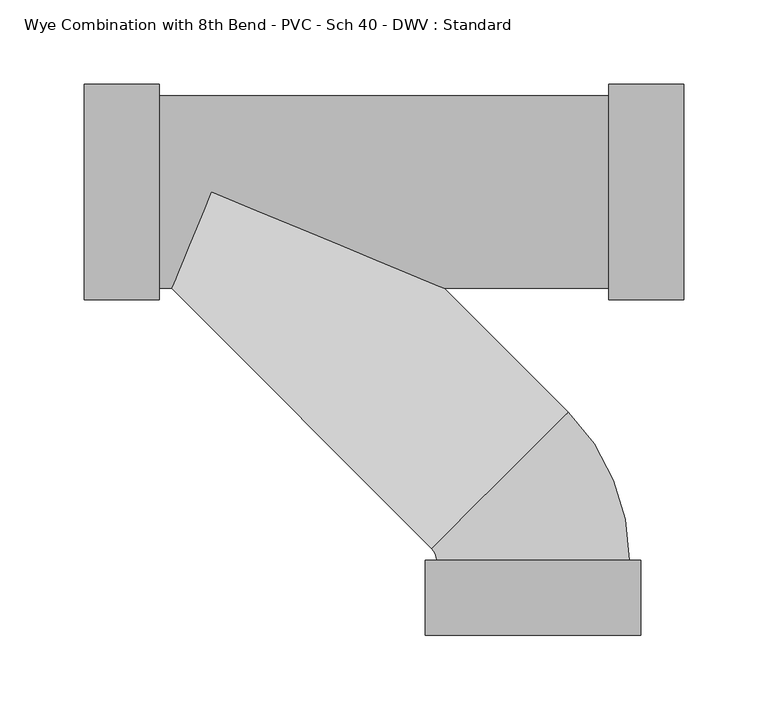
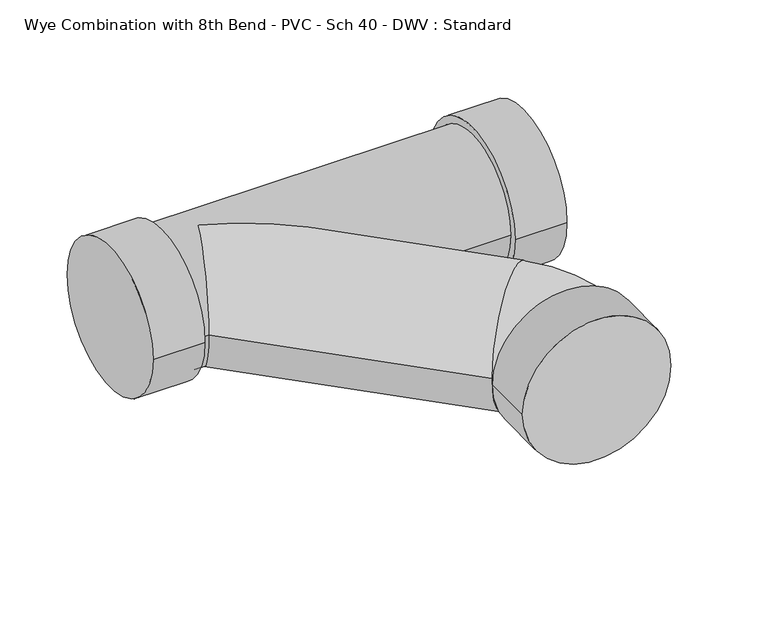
"""IFC4 building model written with IfcOpenShell, lengths in millimetres: pipe fitting geometry, Wye Combination with 8th Bend - PVC - Sch 40 - DWV : Standard."""

from ifc_helpers import new_model, si_unit, point, frame, origin, place, context, project, spatial, circle_curve, ellipse_curve, trimmed, source, transform, mapped, element, save
from ifc_brep_helpers import plane_surface, cylinder_surface, revolved_surface, advanced_brep


def wye_combination_with_8th_bend_pvc_sch_40_dwv_standard_f6c291ce(model_context):
    return source(origin(), model_context, "Body", "AdvancedBrep", [
        advanced_brep(
        [(-265.9100558, -63.754, 0.0), (-265.9100558, 63.754, 0.0), (-221.4600558, -63.754, 0.0), (-221.4600558, 63.754, 0.0), (-221.4600558, -57.15, 0.0), (-221.4600558, 57.15, 0.0), (44.8335442, 57.15, 0.0), (-214.2352415, -57.15, 0.0), (-190.5629364, 0.0, 57.15), (-52.5906313, -57.15, 0.0), (44.8335442, -57.15, 0.0), (-190.5629364, 0.0, -57.15), (44.8335442, -63.754, 0.0), (44.8335442, 63.754, 0.0), (89.2835442, -63.754, 0.0), (89.2835442, 63.754, 0.0), (-60.0116586, -211.3735829, 0.0), (-57.1474558, -218.2882661, 0.0), (57.1525442, -218.2869339, 0.0), (20.8106465, -130.5512778, 0.0), (-63.7514558, -218.2883431, 0.0), (63.7565442, -218.2868569, 0.0), (-63.7509377, -262.7383431, 0.0), (63.7570623, -262.7368569, 0.0)],
        [
            (0, 1, circle_curve(frame((-265.9100558, 0.0, 0.0), z_axis=(-1.0, 0.0, 0.0), x_axis=(0.0, 1.0, 0.0)), 63.754)),
            (1, 0, circle_curve(frame((-265.9100558, 0.0, 0.0), z_axis=(-1.0, 0.0, 0.0), x_axis=(0.0, 1.0, 0.0)), 63.754)),
            (2, 3, circle_curve(frame((-221.4600558, 0.0, 0.0), z_axis=(1.0, 0.0, 0.0), x_axis=(0.0, 1.0, 0.0)), 63.754)),
            (3, 2, circle_curve(frame((-221.4600558, 0.0, 0.0), z_axis=(1.0, 0.0, 0.0), x_axis=(0.0, 1.0, 0.0)), 63.754)),
            (4, 5, circle_curve(frame((-221.4600558, 0.0, 0.0), z_axis=(-1.0, 0.0, 0.0), x_axis=(0.0, 1.0, 0.0)), 57.15)),
            (5, 4, circle_curve(frame((-221.4600558, 0.0, 0.0), z_axis=(-1.0, 0.0, 0.0), x_axis=(0.0, 1.0, 0.0)), 57.15)),
            (0, 2),
            (3, 1),
            (6, 5),
            (4, 7),
            (7, 8, ellipse_curve(frame((-190.5629364, 0.0, 0.0), z_axis=(-0.9238795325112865, 0.38268343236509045, 0.0), x_axis=(-0.38268343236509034, -0.9238795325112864, 0.0)), 61.8587142, 57.15)),
            (8, 9, ellipse_curve(frame((-190.5629364, 0.0, 0.0), z_axis=(0.38268343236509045, 0.9238795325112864, 0.0), x_axis=(-0.9238795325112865, 0.3826834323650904, 0.0)), 149.3401469, 57.15)),
            (9, 10),
            (10, 6, circle_curve(frame((44.8335442, 0.0, 0.0), z_axis=(-1.0, 0.0, 0.0), x_axis=(0.0, 1.0, 0.0)), 57.15)),
            (6, 10, circle_curve(frame((44.8335442, 0.0, 0.0), z_axis=(-1.0, 0.0, 0.0), x_axis=(0.0, 1.0, 0.0)), 57.15)),
            (9, 11, ellipse_curve(frame((-190.5629364, 0.0, 0.0), z_axis=(0.38268343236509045, 0.9238795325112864, 0.0), x_axis=(-0.9238795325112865, 0.3826834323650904, 0.0)), 149.3401469, 57.15)),
            (11, 7, ellipse_curve(frame((-190.5629364, 0.0, 0.0), z_axis=(-0.9238795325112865, 0.38268343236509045, 0.0), x_axis=(-0.38268343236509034, -0.9238795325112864, 0.0)), 61.8587142, 57.15)),
            (12, 13, circle_curve(frame((44.8335442, 0.0, 0.0), z_axis=(-1.0, 0.0, 0.0), x_axis=(0.0, 1.0, 0.0)), 63.754)),
            (13, 12, circle_curve(frame((44.8335442, 0.0, 0.0), z_axis=(-1.0, 0.0, 0.0), x_axis=(0.0, 1.0, 0.0)), 63.754)),
            (14, 15, circle_curve(frame((89.2835442, 0.0, 0.0), z_axis=(1.0, 0.0, 0.0), x_axis=(0.0, 1.0, 0.0)), 63.754)),
            (15, 14, circle_curve(frame((89.2835442, 0.0, 0.0), z_axis=(1.0, 0.0, 0.0), x_axis=(0.0, 1.0, 0.0)), 63.754)),
            (12, 14),
            (15, 13),
            (16, 17, circle_curve(frame((-66.9264558, -218.2883801, 0.0), z_axis=(0.0, 0.0, -1.0), x_axis=(0.999999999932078, 1.1655211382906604e-05, 0.0)), 9.779)),
            (17, 18, circle_curve(frame((0.0025442, -218.2876, 0.0), z_axis=(-1.1655211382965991e-05, 0.999999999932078, 0.0), x_axis=(-0.999999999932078, -1.1655211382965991e-05, 0.0)), 57.15)),
            (18, 19, circle_curve(frame((-66.9264558, -218.2883801, 0.0), z_axis=(0.0, 0.0, 1.0), x_axis=(0.999999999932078, 1.1655211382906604e-05, 0.0)), 124.079)),
            (19, 16, circle_curve(frame((-19.600506, -170.9624303, 0.0), z_axis=(0.7071067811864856, -0.7071067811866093, 0.0), x_axis=(-0.7071067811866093, -0.7071067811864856, 0.0)), 57.15)),
            (16, 19, circle_curve(frame((-19.600506, -170.9624303, 0.0), z_axis=(0.7071067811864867, -0.7071067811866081, 0.0), x_axis=(-0.7071067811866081, -0.7071067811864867, 0.0)), 57.15)),
            (18, 17, circle_curve(frame((0.0025442, -218.2876, 0.0), z_axis=(-1.1655211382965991e-05, 0.999999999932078, 0.0), x_axis=(-0.999999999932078, -1.1655211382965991e-05, 0.0)), 57.15)),
            (19, 9),
            (7, 16),
            (20, 21, circle_curve(frame((0.0025442, -218.2876, 0.0), z_axis=(-1.1655211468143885e-05, 0.999999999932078, 0.0), x_axis=(0.999999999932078, 1.1655211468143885e-05, 0.0)), 63.754)),
            (21, 20, circle_curve(frame((0.0025442, -218.2876, 0.0), z_axis=(-1.1655211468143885e-05, 0.999999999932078, 0.0), x_axis=(0.999999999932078, 1.1655211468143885e-05, 0.0)), 63.754)),
            (22, 23, circle_curve(frame((0.0030623, -262.7376, 0.0), z_axis=(1.1655211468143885e-05, -0.999999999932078, 0.0), x_axis=(0.999999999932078, 1.1655211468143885e-05, 0.0)), 63.754)),
            (23, 22, circle_curve(frame((0.0030623, -262.7376, 0.0), z_axis=(1.1655211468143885e-05, -0.999999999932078, 0.0), x_axis=(0.999999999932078, 1.1655211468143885e-05, 0.0)), 63.754)),
            (20, 22),
            (23, 21),
        ],
        [
            plane_surface(frame((-265.9100558, 0.0, 0.0), z_axis=(-1.0, 0.0, 0.0), x_axis=(0.0, 0.0, 1.0))),
            plane_surface(frame((-221.4600558, 0.0, 0.0), z_axis=(1.0, 0.0, 0.0), x_axis=(0.0, 0.0, 1.0))),
            cylinder_surface(frame((-265.9100558, 0.0, 0.0), z_axis=(-1.0, 0.0, 0.0), x_axis=(0.0, 1.0, 0.0)), 63.754),
            cylinder_surface(frame((-221.4600558, 0.0, 0.0), z_axis=(-1.0, 0.0, 0.0), x_axis=(0.0, 1.0, 0.0)), 57.15),
            plane_surface(frame((44.8335442, 0.0, 0.0), z_axis=(-1.0, 0.0, 0.0), x_axis=(0.0, 0.0, 1.0))),
            plane_surface(frame((89.2835442, 0.0, 0.0), z_axis=(1.0, 0.0, 0.0), x_axis=(0.0, 0.0, 1.0))),
            cylinder_surface(frame((44.8335442, 0.0, 0.0), z_axis=(-1.0, 0.0, 0.0), x_axis=(0.0, 1.0, 0.0)), 63.754),
            revolved_surface(trimmed(ellipse_curve(frame((0.0025442, -218.2876, 0.0), z_axis=(1.1655211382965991e-05, -0.999999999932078, 0.0), x_axis=(-0.999999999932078, -1.1655211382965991e-05, 0.0)), 57.15, 57.15), [point((57.1525442, -218.2869339, 0.0))], [point((-57.1474558, -218.2882661, 0.0))], True, "CARTESIAN"), (-66.9264558, -218.2883801, 0.0), (0.0, 0.0, 1.0)),
            revolved_surface(trimmed(ellipse_curve(frame((0.0025442, -218.2876, 0.0), z_axis=(1.1655211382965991e-05, -0.999999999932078, 0.0), x_axis=(-0.999999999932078, -1.1655211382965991e-05, 0.0)), 57.15, 57.15), [point((-57.1474558, -218.2882661, 0.0))], [point((57.1525442, -218.2869339, 0.0))], True, "CARTESIAN"), (-66.9264558, -218.2883801, 0.0), (0.0, 0.0, 1.0)),
            cylinder_surface(frame((-19.600506, -170.9624303, 0.0), z_axis=(0.7071067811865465, -0.7071067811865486, 0.0), x_axis=(-0.7071067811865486, -0.7071067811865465, 0.0)), 57.15),
            plane_surface(frame((0.0025442, -218.2876, 0.0), z_axis=(-1.1655211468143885e-05, 0.999999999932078, 0.0), x_axis=(0.0, 0.0, 1.0))),
            plane_surface(frame((0.0030623, -262.7376, 0.0), z_axis=(1.1655211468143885e-05, -0.999999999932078, 0.0), x_axis=(0.0, 0.0, 1.0))),
            cylinder_surface(frame((0.0025442, -218.2876, 0.0), z_axis=(-1.1655211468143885e-05, 0.999999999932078, 0.0), x_axis=(0.999999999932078, 1.1655211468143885e-05, 0.0)), 63.754),
        ],
        [
            (0, [[1, 2]]),
            (1, [[3, 4], [5, 6]]),
            (2, [[-1, 7, -4, 8]]),
            (2, [[-2, -8, -3, -7]]),
            (3, [[9, -5, 10, 11, 12, 13, 14]]),
            (3, [[-9, 15, -13, 16, 17, -10, -6]]),
            (4, [[18, 19], [-14, -15]]),
            (5, [[20, 21]]),
            (6, [[-18, 22, -21, 23]]),
            (6, [[-19, -23, -20, -22]]),
            (7, [[24, 25, 26, 27]]),
            (8, [[-24, 28, -26, 29]]),
            (9, [[-27, 30, -12, -11, 31]]),
            (9, [[-28, -31, -17, -16, -30]]),
            (10, [[32, 33], [-25, -29]]),
            (11, [[34, 35]]),
            (12, [[-32, 36, -35, 37]]),
            (12, [[-33, -37, -34, -36]]),
        ],
    ),
    ])


if __name__ == "__main__":
    model = new_model("IFC4")
    model_context = context("Model", 3, world=origin())
    ifc_project = project(units=[si_unit("LENGTHUNIT", "METRE", prefix="MILLI")], contexts=[model_context])
    site = spatial("IfcSite", under=ifc_project)
    building = spatial("IfcBuilding", under=site)
    placement = place(None, origin())
    wye_combination_with_8th_bend_pvc_sch_40_dwv_standard_shape = wye_combination_with_8th_bend_pvc_sch_40_dwv_standard_f6c291ce(model_context)
    element("IfcPipeFitting", 1, ObjectType="Wye Combination with 8th Bend - PVC - Sch 40 - DWV : Standard", at=placement, inside=building, context=model_context, shape_type="MappedRepresentation", body=[
        mapped(wye_combination_with_8th_bend_pvc_sch_40_dwv_standard_shape, transform((0.0, 0.0, 0.0), x_axis=(1.0, 0.0, 0.0), y_axis=(0.0, 1.0, 0.0), z_axis=(0.0, 0.0, 1.0))),
    ])
    save(model, "model.ifc")
